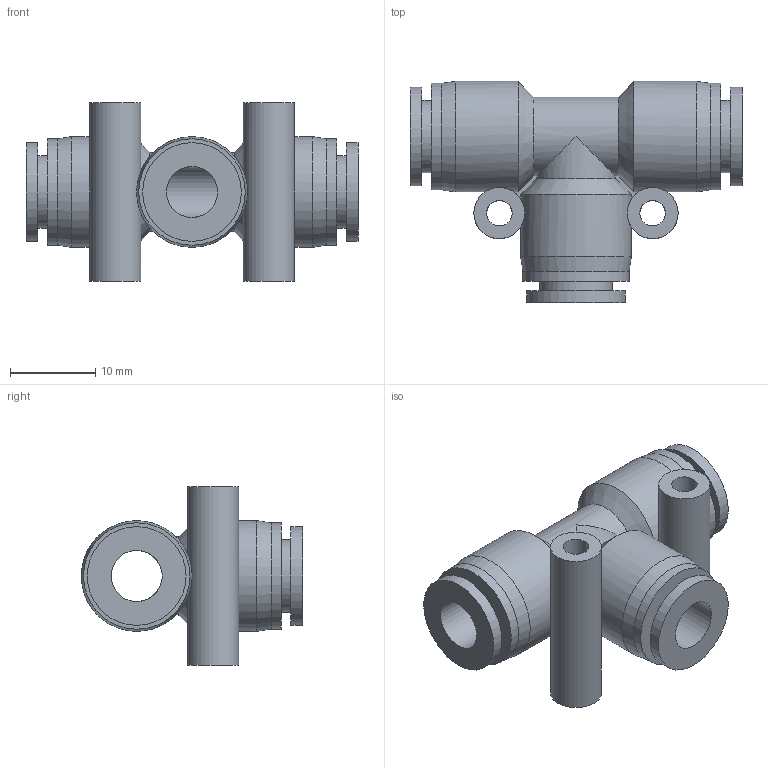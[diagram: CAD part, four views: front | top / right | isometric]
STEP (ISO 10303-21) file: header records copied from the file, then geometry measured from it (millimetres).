
FILE_DESCRIPTION((''),'2;1');
FILE_NAME('S:\UTecnico\ArchivioUT\Speciali Clienti\Speciali KONFIT\Plastica\RP\RP 55\RP550006.stp','2012-05-15T09:28:23',('UT5'),(''),'Autodesk Inventor 2012','Autodesk Inventor 2012','');
FILE_SCHEMA(('AUTOMOTIVE_DESIGN { 1 0 10303 214 1 1 1 1 }'));
Length unit declared in the file: millimetre
Products named in the file (1): RP550006
Bounding box: 39 x 26 x 21 mm (x, y, z)
Volume: 5216.6 mm3; surface area: 4779.8 mm2
Topology: 1 solids, 1 shells, 45 faces, 108 edges, 72 vertices
Faces by surface type: cylinder 21, plane 17, cone 7
Full cylindrical faces by diameter (mm): 3 x2, 6 x4, 8.5 x3, 11.6 x3, 12.5 x3, 13 x3
Entity records: 1388 total; most frequent: CARTESIAN_POINT 370, DIRECTION 208, ORIENTED_EDGE 156, AXIS2_PLACEMENT_3D 96, EDGE_LOOP 82, EDGE_CURVE 78, VERTEX_POINT 64, FACE_OUTER_BOUND 45
